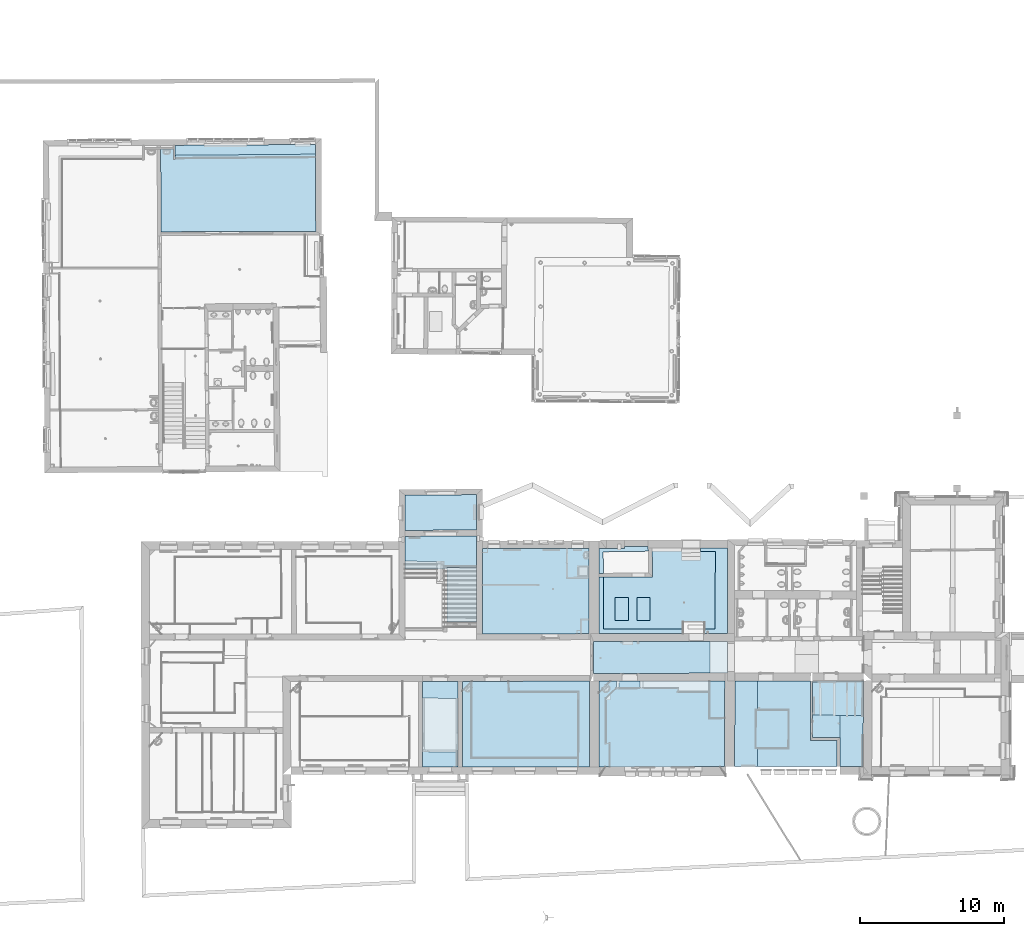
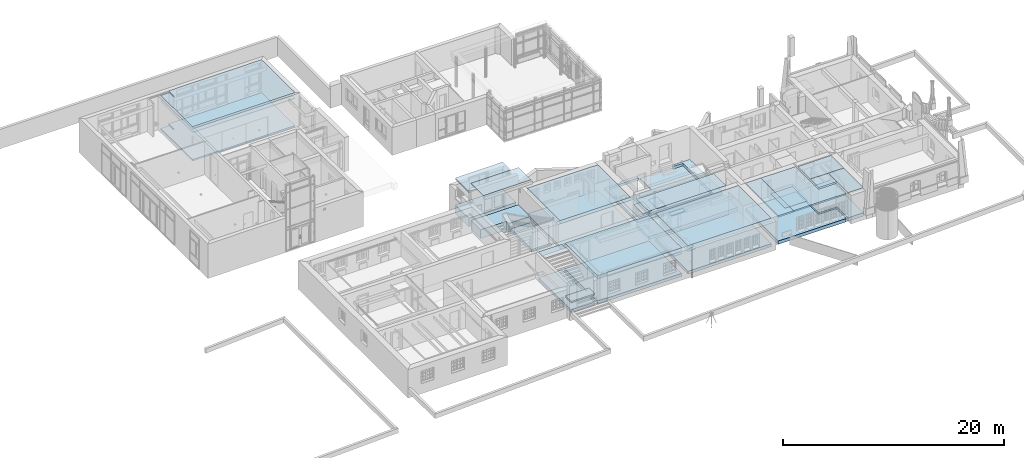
# One storey, part 12 of 196: 36 slabs.
"""IFC2X3 building model written with IfcOpenShell, lengths in metres."""

from ifc_helpers import new_model, entity, si_unit, converted_unit, derived_unit, money_unit, direction, frame, origin_with_axes, place, context, subcontext, project, spatial, polyline, outline, extrude, material, layer, layer_set, layer_usage, type_object, element, save


model = new_model("IFC2X3")

# Units and contexts
model_context = context("Model", 3, precision=1e-05, world=origin_with_axes(), true_north=direction((0.0, 1.0)))
body_context = subcontext(model_context, "Body", "Model", "MODEL_VIEW")
ifc_project = project(units=[si_unit("LENGTHUNIT", "METRE"), si_unit("AREAUNIT", "SQUARE_METRE"), si_unit("VOLUMEUNIT", "CUBIC_METRE"), converted_unit("PLANEANGLEUNIT", "DEGREE", entity("IfcPlaneAngleMeasure", 0.0174532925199), si_unit("PLANEANGLEUNIT", "RADIAN"), dimensions=[0, 0, 0, 0, 0, 0, 0]), money_unit("EUR"), converted_unit("TIMEUNIT", "Year", entity("IfcTimeMeasure", 31556926.0), si_unit("TIMEUNIT", "SECOND"), dimensions=[0, 0, 1, 0, 0, 0, 0]), si_unit("MASSUNIT", "GRAM", prefix="KILO"), si_unit("THERMODYNAMICTEMPERATUREUNIT", "DEGREE_CELSIUS"), si_unit("LUMINOUSINTENSITYUNIT", "LUMEN"), si_unit("ENERGYUNIT", "JOULE", prefix="MEGA"), derived_unit("THERMALCONDUCTANCEUNIT", [(si_unit("POWERUNIT", "WATT"), 1), (si_unit("LENGTHUNIT", "METRE"), -1), (si_unit("THERMODYNAMICTEMPERATUREUNIT", "KELVIN"), -1)]), derived_unit("SPECIFICHEATCAPACITYUNIT", [(si_unit("ENERGYUNIT", "JOULE"), 1), (si_unit("MASSUNIT", "GRAM", prefix="KILO"), -1), (si_unit("THERMODYNAMICTEMPERATUREUNIT", "KELVIN"), -1)]), derived_unit("MASSDENSITYUNIT", [(si_unit("MASSUNIT", "GRAM", prefix="KILO"), 1), (si_unit("VOLUMEUNIT", "CUBIC_METRE"), -1)])], contexts=[model_context])

# Site, building, storey
site_placement = place(None, origin_with_axes())
site = spatial("IfcSite", under=ifc_project, at=site_placement, Name="Gelände", CompositionType="ELEMENT")
building_placement = place(site_placement, origin_with_axes())
building = spatial("IfcBuilding", under=site, at=building_placement, Name="Gebäude", CompositionType="ELEMENT")
storey_placement = place(building_placement, frame((0.0, 0.0, -3.0), z_axis=(0.0, 0.0, 1.0), x_axis=(1.0, 0.0, 0.0)))
storey = spatial("IfcBuildingStorey", under=building, at=storey_placement, Name="KELLERGESCHOSS", CompositionType="ELEMENT", Elevation=-3.0)

# Slabs
ifc_material_1 = material(Name="01_ALLGEMEIN - BAUTEIL")
ifc_layer_1 = layer(ifc_material_1, 0.05, ventilated="UNKNOWN")
ifc_layer_set_1 = layer_set([ifc_layer_1], Name="01_ALLGEMEIN - BAUTEIL 0.05")
ifc_layer_usage_1 = layer_usage(ifc_layer_set_1, "AXIS3", "NEGATIVE", 0.05)
slab_type_1 = type_object("IfcSlabType", Name="01_ALLGEMEIN - BAUTEIL 50", PredefinedType="NOTDEFINED")
slab_1_placement = place(storey_placement, frame((14.4860190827, 14.4047333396, 2.3), z_axis=(0.0, 0.0, 1.0), x_axis=(1.0, 0.0, 0.0)))
element("IfcSlab", 1, at=slab_1_placement, inside=storey, type_object=slab_type_1, material=ifc_layer_usage_1, Name="Belag-004", PredefinedType="NOTDEFINED", context=body_context, shape_type="SweptSolid", body=[
    extrude(outline(polyline([(0.0, 0.0), (-0.00546494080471, -2.67262225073), (2.31113923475, -2.67915520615), (2.31237377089, 0.00051916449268), (0.0, 0.0)])), origin_with_axes(), (0.0, 0.0, 1.0), 0.05),
])
ifc_layer_usage_2 = layer_usage(ifc_layer_set_1, "AXIS3", "NEGATIVE", 0.05)
slab_2_placement = place(storey_placement, frame((-5.85792830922, 15.6975424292, 2.38), z_axis=(0.0, 0.0, 1.0), x_axis=(1.0, 0.0, 0.0)))
element("IfcSlab", 2, at=slab_2_placement, inside=storey, type_object=slab_type_1, material=ifc_layer_usage_2, Name="Belag-012", PredefinedType="NOTDEFINED", context=body_context, shape_type="SweptSolid", body=[
    extrude(outline(polyline([(0.0, 0.0), (0.000927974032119, -5.23767139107), (8.02781288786, -5.23706722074), (8.03033187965, -4.60854053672), (0.656601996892, -4.62198353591), (0.658230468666, 0.665100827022), (0.0, 0.0)])), origin_with_axes(), (0.0, 0.0, 1.0), 0.05),
])
ifc_layer_usage_3 = layer_usage(ifc_layer_set_1, "AXIS3", "NEGATIVE", 0.05)
slab_3_placement = place(storey_placement, frame((2.94974612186, 16.3996596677, 2.09), z_axis=(0.0, 0.0, 1.0), x_axis=(1.0, 0.0, 0.0)))
element("IfcSlab", 3, at=slab_3_placement, inside=storey, type_object=slab_type_1, material=ifc_layer_usage_3, Name="Belag-013", PredefinedType="NOTDEFINED", context=body_context, shape_type="SweptSolid", body=[
    extrude(outline(polyline([(0.0, 0.0), (-5.60373230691, -0.00502737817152), (-5.58956836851, -0.773117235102), (-0.759159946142, -0.773868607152), (-0.779861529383, -5.93918452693), (0.00515632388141, -5.93912540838), (0.0, 0.0)])), origin_with_axes(), (0.0, 0.0, 1.0), 0.05),
])
ifc_layer_usage_4 = layer_usage(ifc_layer_set_1, "AXIS3", "NEGATIVE", 0.05)
slab_4_placement = place(storey_placement, frame((4.4429797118, 16.4015991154, 2.13), z_axis=(0.0, 0.0, 1.0), x_axis=(1.0, 0.0, 0.0)))
element("IfcSlab", 4, at=slab_4_placement, inside=storey, type_object=slab_type_1, material=ifc_layer_usage_4, Name="Belag-013", PredefinedType="NOTDEFINED", context=body_context, shape_type="SweptSolid", body=[
    extrude(outline(polyline([(0.0, 0.0), (-0.832517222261, -0.826829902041), (-0.828077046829, -5.94101519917), (-0.366182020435, -5.94061084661), (-0.36109427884, -5.93224985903), (-0.05788058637, -5.93230262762), (-0.0554011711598, -4.31038056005), (-0.326423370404, -4.31138360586), (-0.331780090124, -1.20959232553), (0.375550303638, -0.511112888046), (0.399250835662, -0.511076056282), (0.406123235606, 0.000656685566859), (0.0, 0.0)])), origin_with_axes(), (0.0, 0.0, 1.0), 0.05),
])
ifc_layer_usage_5 = layer_usage(ifc_layer_set_1, "AXIS3", "NEGATIVE", 0.05)
slab_5_placement = place(storey_placement, frame((5.00570756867, 16.4025090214, 2.27), z_axis=(0.0, 0.0, 1.0), x_axis=(1.0, 0.0, 0.0)))
element("IfcSlab", 5, at=slab_5_placement, inside=storey, type_object=slab_type_1, material=ifc_layer_usage_5, Name="Belag-014", PredefinedType="NOTDEFINED", context=body_context, shape_type="SweptSolid", body=[
    extrude(outline(polyline([(0.0, 0.0), (-0.00807796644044, -0.511744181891), (1.47438101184, -0.509437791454), (1.46741958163, 0.00237272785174), (0.0, 0.0)])), origin_with_axes(), (0.0, 0.0, 1.0), 0.05),
])
ifc_material_2 = material(Name="05_ALLGEMEIN - TRAGENDE BAUTEILE")
ifc_layer_2 = layer(ifc_material_2, 0.33, ventilated="UNKNOWN")
ifc_layer_set_2 = layer_set([ifc_layer_2], Name="05_ALLGEMEIN - TRAGENDE BAUTEILE 0.33")
ifc_layer_usage_6 = layer_usage(ifc_layer_set_2, "AXIS3", "NEGATIVE", 0.33)
slab_type_2 = type_object("IfcSlabType", Name="05_ALLGEMEIN - TRAGENDE BAUTEILE 330", PredefinedType="NOTDEFINED")
slab_6_placement = place(storey_placement, frame((-5.85805130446, 16.3917577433, 2.46), z_axis=(0.0, 0.0, 1.0), x_axis=(1.0, 0.0, 0.0)))
element("IfcSlab", 6, at=slab_6_placement, inside=storey, type_object=slab_type_2, material=ifc_layer_usage_6, Name="Belag-007", PredefinedType="NOTDEFINED", context=body_context, shape_type="SweptSolid", body=[
    extrude(outline(polyline([(0.0, 0.0), (0.00105084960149, -5.93188670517), (8.81295372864, -5.93122352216), (8.80779744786, 0.00790198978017), (0.0, 0.0)])), origin_with_axes(), (0.0, 0.0, 1.0), 0.33),
])
ifc_layer_3 = layer(ifc_material_2, 0.31957191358, ventilated="UNKNOWN")
ifc_layer_set_3 = layer_set([ifc_layer_3], Name="05_ALLGEMEIN - TRAGENDE BAUTEILE 0.319572")
ifc_layer_usage_7 = layer_usage(ifc_layer_set_3, "AXIS3", "NEGATIVE", 0.31957191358)
slab_type_3 = type_object("IfcSlabType", Name="05_ALLGEMEIN - TRAGENDE BAUTEILE 320", PredefinedType="NOTDEFINED")
slab_7_placement = place(storey_placement, frame((-8.61526086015, 16.3892841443, -0.0404280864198), z_axis=(0.0, 0.0, 1.0), x_axis=(1.0, 0.0, 0.0)))
element("IfcSlab", 7, at=slab_7_placement, inside=storey, type_object=slab_type_3, material=ifc_layer_usage_7, Name="Belag-003", PredefinedType="NOTDEFINED", context=body_context, shape_type="SweptSolid", body=[
    extrude(outline(polyline([(0.0, 0.0), (-0.000390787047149, -9.96542564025e-07), (0.0043677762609, -5.92962037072), (2.46826054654, -5.92943493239), (2.46720960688, 0.00221346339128), (0.0, 0.0)])), frame((0.0, 0.0, -0.31957191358), z_axis=(0.0, 0.0, 1.0), x_axis=(1.0, 0.0, 0.0)), (0.0, 0.0, 1.0), 0.31957191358),
])
ifc_layer_4 = layer(ifc_material_2, 0.32, ventilated="UNKNOWN")
ifc_layer_set_4 = layer_set([ifc_layer_4], Name="05_ALLGEMEIN - TRAGENDE BAUTEILE 0.32")
ifc_layer_usage_8 = layer_usage(ifc_layer_set_4, "AXIS3", "NEGATIVE", 0.32)
slab_8_placement = place(storey_placement, frame((-4.87314485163, 24.2511282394, -0.04), z_axis=(0.0, 0.0, 1.0), x_axis=(1.0, 0.0, 0.0)))
element("IfcSlab", 8, at=slab_8_placement, inside=storey, type_object=slab_type_3, material=ifc_layer_usage_8, Name="Belag-003", PredefinedType="NOTDEFINED", context=body_context, shape_type="SweptSolid", body=[
    extrude(outline(polyline([(0.0, 0.0), (-2.05613831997, 0.0277231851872), (-2.05613831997, -3.74334214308), (-0.00165535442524, -3.75441112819), (0.0, 0.0)])), frame((0.0, 0.0, -0.32), z_axis=(0.0, 0.0, 1.0), x_axis=(1.0, 0.0, 0.0)), (0.0, 0.0, 1.0), 0.32),
])
ifc_layer_usage_9 = layer_usage(ifc_layer_set_4, "AXIS3", "NEGATIVE", 0.32)
slab_9_placement = place(storey_placement, frame((3.60974580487, 16.4002518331, -0.04), z_axis=(0.0, 0.0, 1.0), x_axis=(1.0, 0.0, 0.0)))
element("IfcSlab", 9, at=slab_9_placement, inside=storey, type_object=slab_type_3, material=ifc_layer_usage_9, Name="Belag-003", PredefinedType="NOTDEFINED", context=body_context, shape_type="SweptSolid", body=[
    extrude(outline(polyline([(0.0, 0.0), (0.00515692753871, -5.93966791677), (8.72274879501, -5.932036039), (8.73794927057, 0.0141287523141), (0.0, 0.0)])), frame((0.0, 0.0, -0.32), z_axis=(0.0, 0.0, 1.0), x_axis=(1.0, 0.0, 0.0)), (0.0, 0.0, 1.0), 0.32),
])
ifc_layer_usage_10 = layer_usage(ifc_layer_set_4, "AXIS3", "NEGATIVE", 0.32)
slab_10_placement = place(storey_placement, frame((-4.46516834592, 19.6616606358, -0.04), z_axis=(0.0, 0.0, 1.0), x_axis=(1.0, 0.0, 0.0)))
element("IfcSlab", 10, at=slab_10_placement, inside=storey, type_object=slab_type_3, material=ifc_layer_usage_10, Name="Belag-003", PredefinedType="NOTDEFINED", context=body_context, shape_type="SweptSolid", body=[
    extrude(outline(polyline([(0.0, 0.0), (7.3958220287, 0.0320184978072), (7.38969289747, 5.95140472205), (0.00262192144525, 5.9464712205), (0.0, 0.0)])), frame((0.0, 0.0, -0.32), z_axis=(0.0, 0.0, 1.0), x_axis=(1.0, 0.0, 0.0)), (0.0, 0.0, 1.0), 0.32),
])
ifc_layer_5 = layer(ifc_material_2, 0.15, ventilated="UNKNOWN")
ifc_layer_set_5 = layer_set([ifc_layer_5], Name="05_ALLGEMEIN - TRAGENDE BAUTEILE 0.15")
ifc_layer_usage_11 = layer_usage(ifc_layer_set_5, "AXIS3", "NEGATIVE", 0.15)
slab_type_4 = type_object("IfcSlabType", Name="05_ALLGEMEIN - TRAGENDE BAUTEILE 150", PredefinedType="NOTDEFINED")
slab_11_placement = place(storey_placement, frame((-6.14718364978, 11.4945829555, 0.91), z_axis=(0.0, 0.0, 1.0), x_axis=(1.0, 0.0, 0.0)))
element("IfcSlab", 11, at=slab_11_placement, inside=storey, type_object=slab_type_4, material=ifc_layer_usage_11, Name="Belag-004", PredefinedType="NOTDEFINED", context=body_context, shape_type="SweptSolid", body=[
    extrude(outline(polyline([(0.0, 0.0), (-2.4645513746, 0.0142180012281), (-2.46371344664, -1.02991918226), (0.00018242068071, -1.02973374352), (0.0, 0.0)])), frame((0.0, 0.0, -0.15), z_axis=(0.0, 0.0, 1.0), x_axis=(1.0, 0.0, 0.0)), (0.0, 0.0, 1.0), 0.15),
])
ifc_layer_6 = layer(ifc_material_2, 0.35, ventilated="UNKNOWN")
ifc_layer_set_6 = layer_set([ifc_layer_6], Name="05_ALLGEMEIN - TRAGENDE BAUTEILE 0.35")
ifc_layer_usage_12 = layer_usage(ifc_layer_set_6, "AXIS3", "NEGATIVE", 0.35)
slab_type_5 = type_object("IfcSlabType", Name="05_ALLGEMEIN - TRAGENDE BAUTEILE 350", PredefinedType="NOTDEFINED")
slab_12_placement = place(storey_placement, frame((3.60974580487, 16.4002518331, 2.44), z_axis=(0.0, 0.0, 1.0), x_axis=(1.0, 0.0, 0.0)))
element("IfcSlab", 12, at=slab_12_placement, inside=storey, type_object=slab_type_5, material=ifc_layer_usage_12, Name="Belag-008", PredefinedType="NOTDEFINED", context=body_context, shape_type="SweptSolid", body=[
    extrude(outline(polyline([(0.0, 0.0), (0.00515692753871, -5.93966791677), (8.72274879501, -5.932036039), (8.73794927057, 0.0141287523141), (0.0, 0.0)])), origin_with_axes(), (0.0, 0.0, 1.0), 0.35),
])
ifc_layer_usage_13 = layer_usage(ifc_layer_set_6, "AXIS3", "NEGATIVE", 0.35)
slab_13_placement = place(storey_placement, frame((-4.46254642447, 25.6081318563, 2.44), z_axis=(0.0, 0.0, 1.0), x_axis=(1.0, 0.0, 0.0)))
element("IfcSlab", 13, at=slab_13_placement, inside=storey, type_object=slab_type_5, material=ifc_layer_usage_13, Name="Belag-014", PredefinedType="NOTDEFINED", context=body_context, shape_type="SweptSolid", body=[
    extrude(outline(polyline([(0.0, 0.0), (-0.00262192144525, -5.9464712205), (7.39320010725, -5.91445272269), (7.38707097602, 0.00493350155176), (0.0, 0.0)])), origin_with_axes(), (0.0, 0.0, 1.0), 0.35),
])
ifc_layer_7 = layer(ifc_material_2, 0.09, ventilated="UNKNOWN")
ifc_layer_set_7 = layer_set([ifc_layer_7], Name="05_ALLGEMEIN - TRAGENDE BAUTEILE 0.09")
ifc_layer_usage_14 = layer_usage(ifc_layer_set_7, "AXIS3", "NEGATIVE", 0.09)
slab_type_6 = type_object("IfcSlabType", Name="05_ALLGEMEIN - TRAGENDE BAUTEILE 90", PredefinedType="NOTDEFINED")
slab_14_placement = place(storey_placement, frame((-4.87216542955, 26.4724155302, 4.62), z_axis=(0.0, 0.0, 1.0), x_axis=(1.0, 0.0, 0.0)))
element("IfcSlab", 14, at=slab_14_placement, inside=storey, type_object=slab_type_6, material=ifc_layer_usage_14, Name="Belag-014", PredefinedType="NOTDEFINED", context=body_context, shape_type="SweptSolid", body=[
    extrude(outline(polyline([(0.0, 0.0), (-4.9699916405, -0.0247593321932), (-4.97009518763, -2.28889962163), (-0.000595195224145, -2.26678648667), (0.0, 0.0)])), origin_with_axes(), (0.0, 0.0, 1.0), 0.09),
])
ifc_layer_8 = layer(ifc_material_2, 0.17, ventilated="UNKNOWN")
ifc_layer_set_8 = layer_set([ifc_layer_8], Name="05_ALLGEMEIN - TRAGENDE BAUTEILE 0.17")
ifc_layer_usage_15 = layer_usage(ifc_layer_set_8, "AXIS3", "NEGATIVE", 0.17)
slab_type_7 = type_object("IfcSlabType", Name="05_ALLGEMEIN - TRAGENDE BAUTEILE 170", PredefinedType="NOTDEFINED")
slab_15_placement = place(storey_placement, frame((-26.7796646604, 53.3056101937, 0.42), z_axis=(0.0, 0.0, 1.0), x_axis=(1.0, 0.0, 0.0)))
element("IfcSlab", 15, at=slab_15_placement, inside=storey, type_object=slab_type_7, material=ifc_layer_usage_15, Name="Belag-007", PredefinedType="NOTDEFINED", context=body_context, shape_type="SweptSolid", body=[
    extrude(outline(polyline([(0.0, 0.0), (0.0446548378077, -5.74209224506), (10.7650923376, -5.70361697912), (10.7368249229, 0.315606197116), (3.01221011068, 0.269971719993), (0.994861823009, 0.258053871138), (0.994861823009, -0.734480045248), (0.889861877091, -0.734480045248), (0.889861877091, 0.000506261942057), (0.0, 0.0)])), frame((0.0, 0.0, -0.17), z_axis=(0.0, 0.0, 1.0), x_axis=(1.0, 0.0, 0.0)), (0.0, 0.0, 1.0), 0.17),
])
ifc_layer_usage_16 = layer_usage(ifc_layer_set_8, "AXIS3", "NEGATIVE", 0.17)
slab_16_placement = place(storey_placement, frame((14.634778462, 16.4180787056, 2.62), z_axis=(0.0, 0.0, 1.0), x_axis=(1.0, 0.0, 0.0)))
element("IfcSlab", 16, at=slab_16_placement, inside=storey, type_object=slab_type_7, material=ifc_layer_usage_16, Name="Belag-020", PredefinedType="NOTDEFINED", context=body_context, shape_type="SweptSolid", body=[
    extrude(outline(polyline([(0.0, 0.0), (-0.0140451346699, -5.9483883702), (5.50297889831, -5.9448332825), (5.49473565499, -4.13492517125), (3.6663081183, -4.13250684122), (3.67499816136, 0.00594233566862), (0.0, 0.0)])), origin_with_axes(), (0.0, 0.0, 1.0), 0.17),
])
ifc_layer_9 = layer(ifc_material_2, 0.07, ventilated="UNKNOWN")
ifc_layer_set_9 = layer_set([ifc_layer_9], Name="05_ALLGEMEIN - TRAGENDE BAUTEILE 0.07")
ifc_layer_usage_17 = layer_usage(ifc_layer_set_9, "AXIS3", "NEGATIVE", 0.07)
slab_type_8 = type_object("IfcSlabType", Name="05_ALLGEMEIN - TRAGENDE BAUTEILE 70", PredefinedType="NOTDEFINED")
slab_17_placement = place(storey_placement, frame((6.24820110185, 20.6157555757, -0.19), z_axis=(0.0, 0.0, 1.0), x_axis=(1.0, 0.0, 0.0)))
element("IfcSlab", 17, at=slab_17_placement, inside=storey, type_object=slab_type_8, material=ifc_layer_usage_17, Name="Belag-005", PredefinedType="NOTDEFINED", context=body_context, shape_type="SweptSolid", body=[
    extrude(outline(polyline([(0.0, 0.0), (0.919999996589, 0.0), (0.930971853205, 1.60371691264), (0.0109718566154, 1.60371691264), (0.0, 0.0)])), frame((0.0, 0.0, -0.07), z_axis=(0.0, 0.0, 1.0), x_axis=(1.0, 0.0, 0.0)), (0.0, 0.0, 1.0), 0.07),
])
ifc_layer_usage_18 = layer_usage(ifc_layer_set_9, "AXIS3", "NEGATIVE", 0.07)
slab_18_placement = place(storey_placement, frame((5.65963673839, 22.2093822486, -0.19), z_axis=(0.0, 0.0, 1.0), x_axis=(1.0, 0.0, 0.0)))
element("IfcSlab", 18, at=slab_18_placement, inside=storey, type_object=slab_type_8, material=ifc_layer_usage_18, Name="Belag-006", PredefinedType="NOTDEFINED", context=body_context, shape_type="SweptSolid", body=[
    extrude(outline(polyline([(0.0, 0.0), (-0.92, 0.0), (-0.930971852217, -1.60371691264), (0.0223909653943, -1.60371691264), (0.00387154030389, -0.00154904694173), (0.0, 0.0)])), frame((0.0, 0.0, -0.07), z_axis=(0.0, 0.0, 1.0), x_axis=(1.0, 0.0, 0.0)), (0.0, 0.0, 1.0), 0.07),
])
ifc_layer_10 = layer(ifc_material_2, 0.2, ventilated="UNKNOWN")
ifc_layer_set_10 = layer_set([ifc_layer_10], Name="05_ALLGEMEIN - TRAGENDE BAUTEILE 0.2")
ifc_layer_usage_19 = layer_usage(ifc_layer_set_10, "AXIS3", "NEGATIVE", 0.2)
slab_type_9 = type_object("IfcSlabType", Name="05_ALLGEMEIN - TRAGENDE BAUTEILE 200", PredefinedType="NOTDEFINED")
slab_19_placement = place(storey_placement, frame((-9.84556294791, 29.295695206, 3.37), z_axis=(0.0, 0.0, 1.0), x_axis=(1.0, 0.0, 0.0)))
element("IfcSlab", 19, at=slab_19_placement, inside=storey, type_object=slab_type_9, material=ifc_layer_usage_19, Name="Belag-014", PredefinedType="NOTDEFINED", context=body_context, shape_type="SweptSolid", body=[
    extrude(outline(polyline([(0.0, 0.0), (0.00519584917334, -2.43802499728), (4.96832810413, -2.41329981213), (4.96309397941, 0.0426589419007), (0.0, 0.0)])), origin_with_axes(), (0.0, 0.0, 1.0), 0.2),
])
ifc_layer_11 = layer(ifc_material_2, 0.19, ventilated="UNKNOWN")
ifc_layer_set_11 = layer_set([ifc_layer_11], Name="05_ALLGEMEIN - TRAGENDE BAUTEILE 0.19")
ifc_layer_usage_20 = layer_usage(ifc_layer_set_11, "AXIS3", "NEGATIVE", 0.19)
slab_type_10 = type_object("IfcSlabType", Name="05_ALLGEMEIN - TRAGENDE BAUTEILE 190", PredefinedType="NOTDEFINED")
slab_20_placement = place(storey_placement, frame((13.0477002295, 16.4155124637, 2.6), z_axis=(0.0, 0.0, 1.0), x_axis=(1.0, 0.0, 0.0)))
element("IfcSlab", 20, at=slab_20_placement, inside=storey, type_object=slab_type_10, material=ifc_layer_usage_20, Name="Belag-020", PredefinedType="NOTDEFINED", context=body_context, shape_type="SweptSolid", body=[
    extrude(outline(polyline([(0.0, 0.0), (-0.0152020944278, -5.94684557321), (1.57303309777, -5.94582212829), (1.58707823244, 0.00256624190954), (0.0, 0.0)])), origin_with_axes(), (0.0, 0.0, 1.0), 0.19),
])
ifc_layer_usage_21 = layer_usage(ifc_layer_set_11, "AXIS3", "NEGATIVE", 0.19)
slab_21_placement = place(storey_placement, frame((20.3286065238, 12.482890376, 2.6), z_axis=(0.0, 0.0, 1.0), x_axis=(1.0, 0.0, 0.0)))
element("IfcSlab", 21, at=slab_21_placement, inside=storey, type_object=slab_type_10, material=ifc_layer_usage_21, Name="Belag-021", PredefinedType="NOTDEFINED", context=body_context, shape_type="SweptSolid", body=[
    extrude(outline(polyline([(0.0, 0.0), (0.00915231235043, -2.0095160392), (1.61002925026, -2.00848445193), (1.61918257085, 0.159019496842), (1.62501852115, 1.54097053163), (0.021542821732, 1.55162511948), (0.0, 0.0)])), origin_with_axes(), (0.0, 0.0, 1.0), 0.19),
])
ifc_layer_12 = layer(ifc_material_2, 0.82, ventilated="UNKNOWN")
ifc_layer_set_12 = layer_set([ifc_layer_12], Name="05_ALLGEMEIN - TRAGENDE BAUTEILE 0.82")
ifc_layer_usage_22 = layer_usage(ifc_layer_set_12, "AXIS3", "NEGATIVE", 0.82)
slab_type_11 = type_object("IfcSlabType", Name="05_ALLGEMEIN - TRAGENDE BAUTEILE 820", PredefinedType="NOTDEFINED")
slab_22_placement = place(storey_placement, frame((18.4347860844, 14.0472424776, 1.97), z_axis=(0.0, 0.0, 1.0), x_axis=(1.0, 0.0, 0.0)))
element("IfcSlab", 22, at=slab_22_placement, inside=storey, type_object=slab_type_11, material=ifc_layer_usage_22, Name="Belag-023", PredefinedType="NOTDEFINED", context=body_context, shape_type="SweptSolid", body=[
    extrude(outline(polyline([(0.0, 0.0), (3.45595813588, -0.0229637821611), (3.51883892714, -0.0233815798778), (3.52868528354, 2.29270185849), (1.63212338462, 2.29270185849), (1.62979200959, 2.25770113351), (0.00475118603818, 2.26267530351), (0.0, 0.0)])), origin_with_axes(), (0.0, 0.0, 1.0), 0.82),
])
ifc_layer_13 = layer(ifc_material_2, 0.36, ventilated="UNKNOWN")
ifc_layer_set_13 = layer_set([ifc_layer_13], Name="05_ALLGEMEIN - TRAGENDE BAUTEILE 0.36")
ifc_layer_usage_23 = layer_usage(ifc_layer_set_13, "AXIS3", "NEGATIVE", 0.36)
slab_type_12 = type_object("IfcSlabType", Name="05_ALLGEMEIN - TRAGENDE BAUTEILE 360", PredefinedType="NOTDEFINED")
slab_23_placement = place(storey_placement, frame((18.4315065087, 12.4853995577, 0.0), z_axis=(0.0, 0.0, 1.0), x_axis=(1.0, 0.0, 0.0)))
element("IfcSlab", 23, at=slab_23_placement, inside=storey, type_object=slab_type_12, material=ifc_layer_usage_23, Name="Belag-004", PredefinedType="NOTDEFINED", context=body_context, shape_type="SweptSolid", body=[
    extrude(outline(polyline([(0.0, 0.0), (1.89710005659, -0.00250914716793), (1.90625233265, -2.01202528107), (3.507129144, -2.01099371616), (3.53227937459, 3.94452979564), (0.00827080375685, 3.93883160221), (0.0, 0.0)])), frame((0.0, 0.0, -0.36), z_axis=(0.0, 0.0, 1.0), x_axis=(1.0, 0.0, 0.0)), (0.0, 0.0, 1.0), 0.36),
])
ifc_layer_usage_24 = layer_usage(ifc_layer_set_13, "AXIS3", "NEGATIVE", 0.36)
slab_24_placement = place(storey_placement, frame((13.0477002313, 16.4155124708, 0.0), z_axis=(0.0, 0.0, 1.0), x_axis=(1.0, 0.0, 0.0)))
element("IfcSlab", 24, at=slab_24_placement, inside=storey, type_object=slab_type_12, material=ifc_layer_usage_24, Name="Belag-004", PredefinedType="NOTDEFINED", context=body_context, shape_type="SweptSolid", body=[
    extrude(outline(polyline([(0.0, 0.0), (-0.0152020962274, -5.94684558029), (7.09005712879, -5.94226704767), (7.08181388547, -4.13235893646), (5.25338634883, -4.12994060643), (5.26207639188, 0.00850857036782), (0.0, 0.0)])), frame((0.0, 0.0, -0.36), z_axis=(0.0, 0.0, 1.0), x_axis=(1.0, 0.0, 0.0)), (0.0, 0.0, 1.0), 0.36),
])
ifc_layer_14 = layer(ifc_material_2, 0.18, ventilated="UNKNOWN")
ifc_layer_set_14 = layer_set([ifc_layer_14], Name="05_ALLGEMEIN - TRAGENDE BAUTEILE 0.18")
ifc_layer_usage_25 = layer_usage(ifc_layer_set_14, "AXIS3", "NEGATIVE", 0.18)
slab_type_13 = type_object("IfcSlabType", Name="05_ALLGEMEIN - TRAGENDE BAUTEILE 180", PredefinedType="NOTDEFINED")
slab_25_placement = place(storey_placement, frame((18.4347860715, 14.0472424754, 2.61), z_axis=(0.0, 0.0, 1.0), x_axis=(1.0, 0.0, 0.0)))
element("IfcSlab", 25, at=slab_25_placement, inside=storey, type_object=slab_type_13, material=ifc_layer_usage_25, Name="Belag-022", PredefinedType="NOTDEFINED", context=body_context, shape_type="SweptSolid", body=[
    extrude(outline(polyline([(0.0, 0.0), (-0.00327956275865, -1.56184291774), (1.89382043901, -1.56435206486), (1.91536328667, -0.0127269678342), (0.0, 0.0)])), origin_with_axes(), (0.0, 0.0, 1.0), 0.18),
])
ifc_layer_15 = layer(ifc_material_2, 0.96, ventilated="UNKNOWN")
ifc_layer_set_15 = layer_set([ifc_layer_15], Name="05_ALLGEMEIN - TRAGENDE BAUTEILE 0.96")
ifc_layer_usage_26 = layer_usage(ifc_layer_set_15, "AXIS3", "NEGATIVE", 0.96)
slab_type_14 = type_object("IfcSlabType", Name="05_ALLGEMEIN - TRAGENDE BAUTEILE 960", PredefinedType="NOTDEFINED")
slab_26_placement = place(storey_placement, frame((-9.84215712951, 26.4476561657, 0.6), z_axis=(0.0, 0.0, 1.0), x_axis=(1.0, 0.0, 0.0)))
element("IfcSlab", 26, at=slab_26_placement, inside=storey, type_object=slab_type_14, material=ifc_layer_usage_26, Name="Belag-004", PredefinedType="NOTDEFINED", context=body_context, shape_type="SweptSolid", body=[
    extrude(outline(polyline([(0.0, 0.0), (0.000136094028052, -1.72672341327), (2.23136221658, -1.73555042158), (2.72078025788, -1.73261803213), (2.72235940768, -1.99619662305), (2.71705581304, -1.99622846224), (2.71678103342, -2.13268834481), (4.96904619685, -2.13268834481), (4.96999169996, 0.024759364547), (0.0, 0.0)])), frame((0.0, 0.0, -0.96), z_axis=(0.0, 0.0, 1.0), x_axis=(1.0, 0.0, 0.0)), (0.0, 0.0, 1.0), 0.96),
])
ifc_layer_16 = layer(ifc_material_2, 0.250000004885, ventilated="UNKNOWN")
ifc_layer_set_16 = layer_set([ifc_layer_16], Name="05_ALLGEMEIN - TRAGENDE BAUTEILE 0.25")
ifc_layer_usage_27 = layer_usage(ifc_layer_set_16, "AXIS3", "NEGATIVE", 0.25)
slab_type_15 = type_object("IfcSlabType", Name="05_ALLGEMEIN - TRAGENDE BAUTEILE 250", PredefinedType="NOTDEFINED")
slab_27_placement = place(storey_placement, frame((-26.7796646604, 53.3056101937, 3.81), z_axis=(0.0, 0.0, 1.0), x_axis=(1.0, 0.0, 0.0)))
element("IfcSlab", 27, at=slab_27_placement, inside=storey, type_object=slab_type_15, material=ifc_layer_usage_27, Name="Belag-005", PredefinedType="NOTDEFINED", context=body_context, shape_type="SweptSolid", body=[
    extrude(outline(polyline([(0.0, 0.0), (0.0446548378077, -5.74209224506), (10.7650923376, -5.70361697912), (10.7368249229, 0.315606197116), (3.01221011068, 0.269971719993), (0.994861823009, 0.258053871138), (0.994861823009, -0.734480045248), (0.889861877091, -0.734480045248), (0.889861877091, 0.000506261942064), (0.0, 0.0)])), origin_with_axes(), (0.0, 0.0, 1.0), 0.25),
])
ifc_layer_usage_28 = layer_usage(ifc_layer_set_16, "AXIS3", "NEGATIVE", 0.25)
slab_28_placement = place(storey_placement, frame((3.61453563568, 25.6025261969, 0.01), z_axis=(0.0, 0.0, 1.0), x_axis=(1.0, 0.0, 0.0)))
element("IfcSlab", 28, at=slab_28_placement, inside=storey, type_object=slab_type_15, material=ifc_layer_usage_28, Name="Belag-005", PredefinedType="NOTDEFINED", context=body_context, shape_type="SweptSolid", body=[
    extrude(outline(polyline([(0.0, 0.0), (0.00178408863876, -1.72279954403), (0.310769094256, -1.72101795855), (0.303386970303, -0.231729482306), (3.42824555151, -0.188027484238), (3.425274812, 0.0210551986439), (3.41812640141, 0.0210432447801), (3.41792635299, 0.141043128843), (1.77803691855, 0.138309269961), (1.77826199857, 0.0033094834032), (1.28582400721, 0.00248849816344), (0.515999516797, 0.00120514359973), (0.515999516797, 0.000344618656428), (0.0, 0.0)])), frame((0.0, 0.0, -0.25), z_axis=(0.0, 0.0, 1.0), x_axis=(1.0, 0.0, 0.0)), (0.0, 0.0, 1.0), 0.25),
])
ifc_layer_17 = layer(ifc_material_2, 0.1, ventilated="UNKNOWN")
ifc_layer_set_17 = layer_set([ifc_layer_17], Name="05_ALLGEMEIN - TRAGENDE BAUTEILE 0.1")
ifc_layer_usage_29 = layer_usage(ifc_layer_set_17, "AXIS3", "NEGATIVE", 0.1)
slab_type_16 = type_object("IfcSlabType", Name="05_ALLGEMEIN - TRAGENDE BAUTEILE 100", PredefinedType="NOTDEFINED")
slab_29_placement = place(storey_placement, frame((3.61659925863, 23.6097237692, -0.26), z_axis=(0.0, 0.0, 1.0), x_axis=(1.0, 0.0, 0.0)))
element("IfcSlab", 29, at=slab_29_placement, inside=storey, type_object=slab_type_16, material=ifc_layer_usage_29, Name="Belag-005", PredefinedType="NOTDEFINED", context=body_context, shape_type="SweptSolid", body=[
    extrude(outline(polyline([(0.0, 0.0), (0.00405110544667, -3.91253903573), (8.93087694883, -3.9070656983), (8.9258514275, 2.02300782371), (8.3402455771, 2.01902552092), (8.34021736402, 2.02205470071), (3.69323198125, 2.01430781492), (3.72154739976, 0.0214581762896), (0.0, 0.0)])), frame((0.0, 0.0, -0.1), z_axis=(0.0, 0.0, 1.0), x_axis=(1.0, 0.0, 0.0)), (0.0, 0.0, 1.0), 0.1),
])
ifc_layer_usage_30 = layer_usage(ifc_layer_set_17, "AXIS3", "NEGATIVE", 0.1)
slab_30_placement = place(storey_placement, frame((-8.61526086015, 16.3892841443, 2.69), z_axis=(0.0, 0.0, 1.0), x_axis=(1.0, 0.0, 0.0)))
element("IfcSlab", 30, at=slab_30_placement, inside=storey, type_object=slab_type_16, material=ifc_layer_usage_30, Name="Belag-016", PredefinedType="NOTDEFINED", context=body_context, shape_type="SweptSolid", body=[
    extrude(outline(polyline([(0.0, 0.0), (-0.000390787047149, -9.96542560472e-07), (0.000543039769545, -1.16363742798), (2.46741988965, -1.18472848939), (2.46720960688, 0.00221346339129), (0.0, 0.0)])), origin_with_axes(), (0.0, 0.0, 1.0), 0.1),
])
ifc_layer_18 = layer(ifc_material_2, 0.328813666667, ventilated="UNKNOWN")
ifc_layer_set_18 = layer_set([ifc_layer_18], Name="05_ALLGEMEIN - TRAGENDE BAUTEILE 0.328814")
ifc_layer_usage_31 = layer_usage(ifc_layer_set_18, "AXIS3", "NEGATIVE", 0.328813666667)
slab_type_17 = type_object("IfcSlabType", Name="05_ALLGEMEIN - TRAGENDE BAUTEILE 329", PredefinedType="NOTDEFINED")
slab_31_placement = place(storey_placement, frame((12.5479319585, 19.1648150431, -0.0311863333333), z_axis=(0.0, 0.0, 1.0), x_axis=(1.0, 0.0, 0.0)))
element("IfcSlab", 31, at=slab_31_placement, inside=storey, type_object=slab_type_17, material=ifc_layer_usage_31, Name="Belag-003", PredefinedType="NOTDEFINED", context=body_context, shape_type="SweptSolid", body=[
    extrude(outline(polyline([(0.0, 0.0), (-9.30961318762, -0.00570798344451), (-9.30007592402, -2.22514782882), (0.00187301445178, -2.2101069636), (0.0, 0.0)])), frame((0.0, 0.0, -0.328813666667), z_axis=(0.0, 0.0, 1.0), x_axis=(1.0, 0.0, 0.0)), (0.0, 0.0, 1.0), 0.328813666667),
])
ifc_layer_19 = layer(ifc_material_2, 0.325632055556, ventilated="UNKNOWN")
ifc_layer_set_19 = layer_set([ifc_layer_19], Name="05_ALLGEMEIN - TRAGENDE BAUTEILE 0.325632")
ifc_layer_usage_32 = layer_usage(ifc_layer_set_19, "AXIS3", "NEGATIVE", 0.325632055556)
slab_type_18 = type_object("IfcSlabType", Name="05_ALLGEMEIN - TRAGENDE BAUTEILE 326", PredefinedType="NOTDEFINED")
slab_32_placement = place(storey_placement, frame((-5.85805130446, 16.3917577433, -0.0343679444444), z_axis=(0.0, 0.0, 1.0), x_axis=(1.0, 0.0, 0.0)))
element("IfcSlab", 32, at=slab_32_placement, inside=storey, type_object=slab_type_18, material=ifc_layer_usage_32, Name="Belag-003", PredefinedType="NOTDEFINED", context=body_context, shape_type="SweptSolid", body=[
    extrude(outline(polyline([(0.0, 0.0), (0.00105084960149, -5.93188670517), (8.81295372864, -5.93122352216), (8.80779744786, 0.00790198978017), (0.0, 0.0)])), frame((0.0, 0.0, -0.325632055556), z_axis=(0.0, 0.0, 1.0), x_axis=(1.0, 0.0, 0.0)), (0.0, 0.0, 1.0), 0.325632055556),
])
ifc_layer_20 = layer(ifc_material_1, 0.06, ventilated="UNKNOWN")
ifc_layer_set_20 = layer_set([ifc_layer_20], Name="01_ALLGEMEIN - BAUTEIL 0.06")
ifc_layer_usage_33 = layer_usage(ifc_layer_set_20, "AXIS3", "NEGATIVE", 0.06)
slab_type_19 = type_object("IfcSlabType", Name="01_ALLGEMEIN - BAUTEIL 60", PredefinedType="NOTDEFINED")
slab_33_placement = place(storey_placement, frame((-26.7796646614, 53.3056101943, 3.38), z_axis=(0.0, 0.0, 1.0), x_axis=(1.0, 0.0, 0.0)))
element("IfcSlab", 33, at=slab_33_placement, inside=storey, type_object=slab_type_19, material=ifc_layer_usage_33, Name="Belag-004", PredefinedType="NOTDEFINED", context=body_context, shape_type="SweptSolid", body=[
    extrude(outline(polyline([(0.0, 0.0), (0.0446548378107, -5.74209224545), (10.7650923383, -5.7036169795), (10.7399701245, -0.354132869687), (0.994861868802, -0.432412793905), (0.994861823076, -0.734480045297), (0.889861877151, -0.734480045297), (0.889861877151, 0.000506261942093), (0.0, 0.0)])), origin_with_axes(), (0.0, 0.0, 1.0), 0.06),
])
ifc_layer_21 = layer(ifc_material_2, 0.95, ventilated="UNKNOWN")
ifc_layer_set_21 = layer_set([ifc_layer_21], Name="05_ALLGEMEIN - TRAGENDE BAUTEILE 0.95")
ifc_layer_usage_34 = layer_usage(ifc_layer_set_21, "AXIS3", "NEGATIVE", 0.95)
slab_type_20 = type_object("IfcSlabType", Name="05_ALLGEMEIN - TRAGENDE BAUTEILE 950", PredefinedType="NOTDEFINED")
slab_34_placement = place(storey_placement, frame((-4.8824689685, 29.3383541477, 0.59), z_axis=(0.0, 0.0, 1.0), x_axis=(1.0, 0.0, 0.0)))
element("IfcSlab", 34, at=slab_34_placement, inside=storey, type_object=slab_type_20, material=ifc_layer_usage_34, Name="Belag-004", PredefinedType="NOTDEFINED", context=body_context, shape_type="SweptSolid", body=[
    extrude(outline(polyline([(0.0, 0.0), (-4.96309397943, -0.0426589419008), (-4.95789813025, -2.48068393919), (0.00523412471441, -2.45595875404), (0.0, 0.0)])), frame((0.0, 0.0, -0.95), z_axis=(0.0, 0.0, 1.0), x_axis=(1.0, 0.0, 0.0)), (0.0, 0.0, 1.0), 0.95),
])
ifc_layer_22 = layer(ifc_material_2, 0.272925, ventilated="UNKNOWN")
ifc_layer_set_22 = layer_set([ifc_layer_22], Name="05_ALLGEMEIN - TRAGENDE BAUTEILE 0.272925")
ifc_layer_usage_35 = layer_usage(ifc_layer_set_22, "AXIS3", "NEGATIVE", 0.272925)
slab_type_21 = type_object("IfcSlabType", Name="05_ALLGEMEIN - TRAGENDE BAUTEILE 273", PredefinedType="NOTDEFINED")
slab_35_placement = place(storey_placement, frame((3.62065036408, 19.6971847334, 0.012925), z_axis=(0.0, 0.0, 1.0), x_axis=(1.0, 0.0, 0.0)))
element("IfcSlab", 35, at=slab_35_placement, inside=storey, type_object=slab_type_21, material=ifc_layer_usage_35, Name="Belag-005", PredefinedType="NOTDEFINED", context=body_context, shape_type="SweptSolid", body=[
    extrude(outline(polyline([(0.0, 0.0), (8.92682582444, 0.00547331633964), (8.92180033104, 5.93556999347), (7.04767854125, 5.93244567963), (7.04798323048, 5.68812446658), (8.07457163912, 5.68435955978), (8.04621604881, 0.335091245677), (0.325445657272, 0.339078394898), (0.302333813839, 3.91285627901), (-0.00405110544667, 3.91253904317), (0.0, 0.0)])), frame((0.0, 0.0, -0.272925), z_axis=(0.0, 0.0, 1.0), x_axis=(1.0, 0.0, 0.0)), (0.0, 0.0, 1.0), 0.272925),
])
ifc_layer_23 = layer(ifc_material_2, 0.45, ventilated="UNKNOWN")
ifc_layer_set_23 = layer_set([ifc_layer_23], Name="05_ALLGEMEIN - TRAGENDE BAUTEILE 0.45")
ifc_layer_usage_36 = layer_usage(ifc_layer_set_23, "AXIS3", "NEGATIVE", 0.45)
slab_type_22 = type_object("IfcSlabType", Name="05_ALLGEMEIN - TRAGENDE BAUTEILE 450", PredefinedType="NOTDEFINED")
slab_36_placement = place(storey_placement, frame((3.23831877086, 19.1591070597, 2.34), z_axis=(0.0, 0.0, 1.0), x_axis=(1.0, 0.0, 0.0)))
element("IfcSlab", 36, at=slab_36_placement, inside=storey, type_object=slab_type_22, material=ifc_layer_usage_36, Name="Belag-017", PredefinedType="NOTDEFINED", context=body_context, shape_type="SweptSolid", body=[
    extrude(outline(polyline([(0.0, 0.0), (0.00953726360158, -2.21943984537), (8.09492027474, -2.20636610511), (8.0879519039, 0.00495892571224), (0.0, 0.0)])), origin_with_axes(), (0.0, 0.0, 1.0), 0.45),
])

save(model, "model.ifc")
